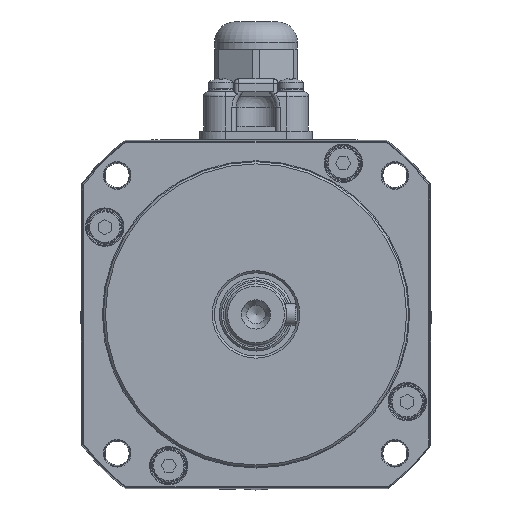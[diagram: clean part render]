
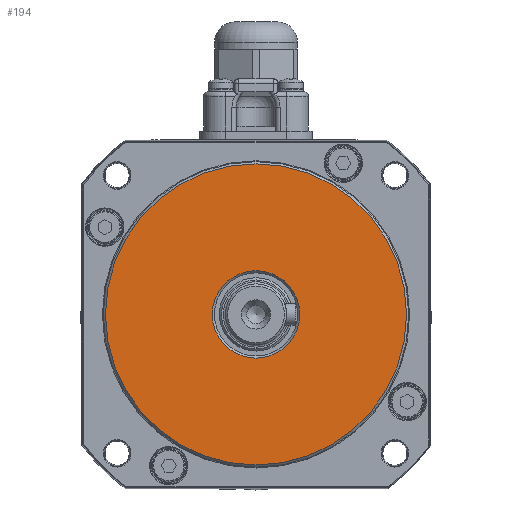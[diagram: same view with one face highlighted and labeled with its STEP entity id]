
A CAD part, front view. The second image highlights one B-rep face of the part: STEP entity #194.
In plain terms, the highlighted planar face has unit normal (0, -1, 0).
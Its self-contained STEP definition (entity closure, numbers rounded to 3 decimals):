
#194=ADVANCED_FACE('',(#2052,#2053),#2054,.T.);
#2052=FACE_BOUND('',#5793,.T.);
#2053=FACE_OUTER_BOUND('',#5794,.T.);
#2054=PLANE('',#5795);
#5793=EDGE_LOOP('',(#13583));
#5794=EDGE_LOOP('',(#13584));
#5795=AXIS2_PLACEMENT_3D('',#13585,#13586,#13587);
#13583=ORIENTED_EDGE('',*,*,#26334,.T.);
#13584=ORIENTED_EDGE('',*,*,#26335,.T.);
#13585=CARTESIAN_POINT('',(0.,-108.,0.));
#13586=DIRECTION('',(0.,-1.0,0.));
#13587=DIRECTION('',(-1.0,0.,0.0));
#26334=EDGE_CURVE('',#30684,#30684,#30685,.T.);
#26335=EDGE_CURVE('',#30686,#30686,#30687,.T.);
#30684=VERTEX_POINT('',#37487);
#30685=CIRCLE('',#37488,10.018);
#30686=VERTEX_POINT('',#37489);
#30687=CIRCLE('',#37490,34.5);
#37487=CARTESIAN_POINT('',(0.,-108.,-10.018));
#37488=AXIS2_PLACEMENT_3D('',#48264,#48265,#48266);
#37489=CARTESIAN_POINT('',(0.,-108.,-34.5));
#37490=AXIS2_PLACEMENT_3D('',#48267,#48268,#48269);
#48264=CARTESIAN_POINT('',(0.,-108.,0.));
#48265=DIRECTION('',(0.,1.0,0.));
#48266=DIRECTION('',(0.,0.,-1.0));
#48267=CARTESIAN_POINT('',(0.,-108.,0.));
#48268=DIRECTION('',(0.,-1.0,0.));
#48269=DIRECTION('',(0.,0.,-1.0));
